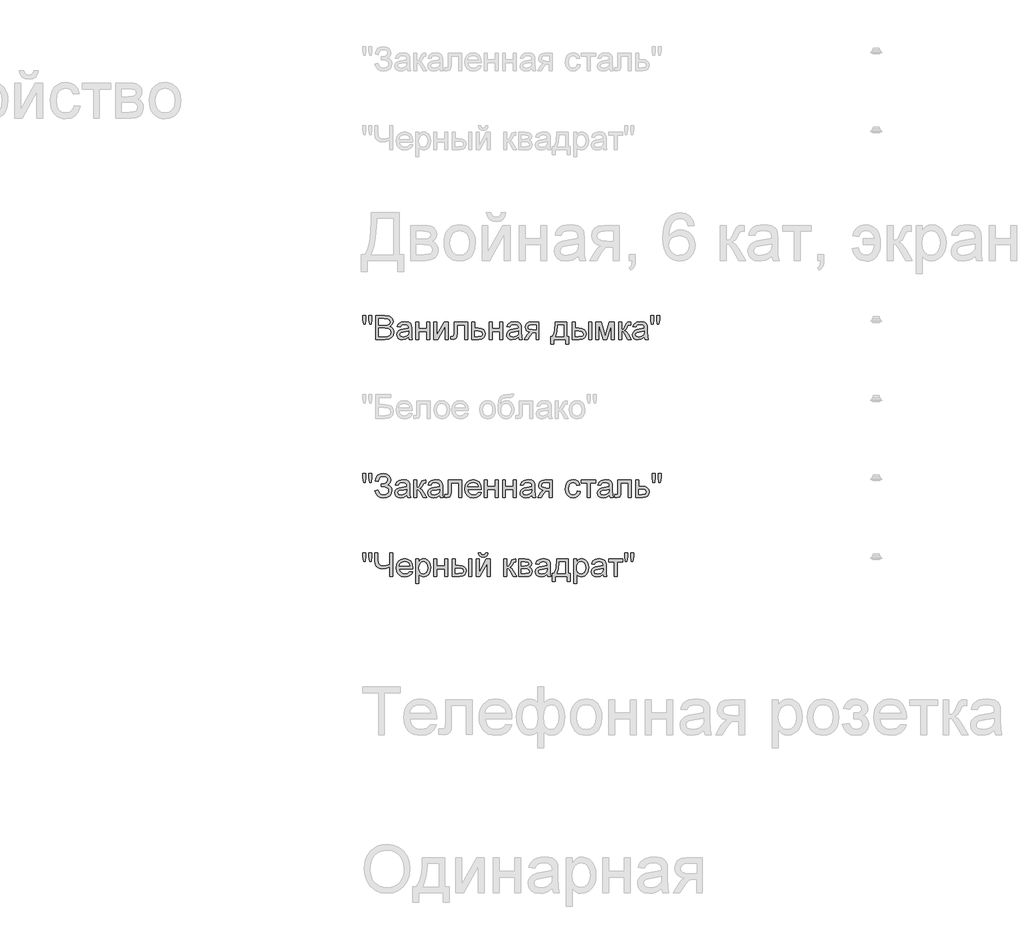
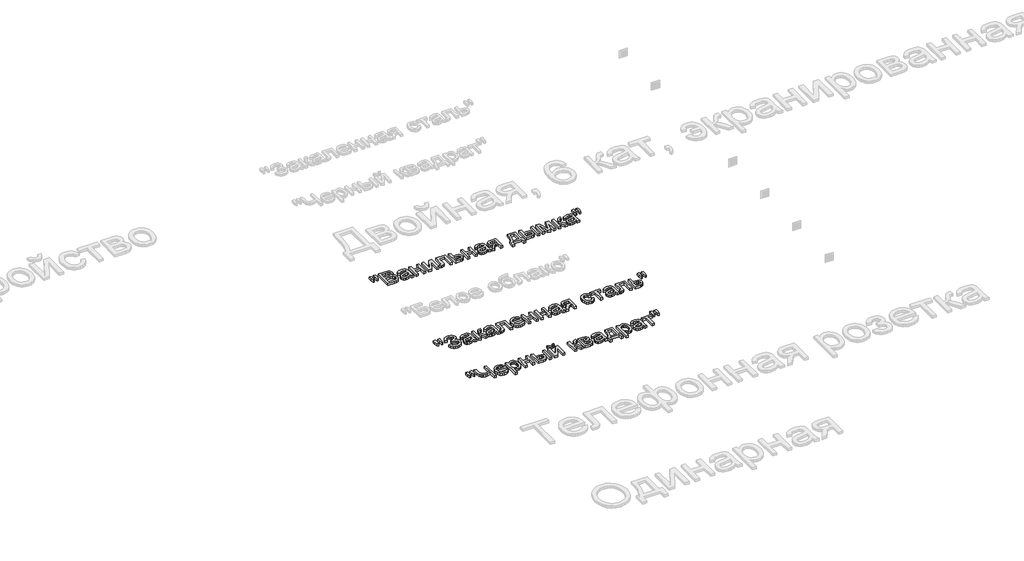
# One storey, part 146 of 168: 3 proxies.
"""IFC4 building model written with IfcOpenShell, lengths in millimetres."""

from ifc_helpers import new_model, si_unit, origin, origin_with_axes, place, context, project, spatial, polyline, outline, extrude, element, save

model = new_model("IFC4")

# Units and contexts
model_context = context("Model", 3, world=origin())
ifc_project = project(units=[si_unit("LENGTHUNIT", "METRE", prefix="MILLI")], contexts=[model_context])

# Site, building, storey
site = spatial("IfcSite", under=ifc_project)
building = spatial("IfcBuilding", under=site)
storey = spatial("IfcBuildingStorey", under=building, Name="Этаж 01", Elevation=0.0)

# Proxies
placement = place(None, origin())
element("IfcBuildingElementProxy", 1, Name="150", ObjectType="150", at=placement, inside=storey, context=model_context, shape_type="SweptSolid", body=[
    extrude(outline(polyline([(77280.1485789, -17251.873446), (77275.550054, -17222.7739802), (77275.550054, -17197.7212163), (77294.3856121, -17197.7212163), (77294.3856121, -17222.7739802), (77290.2653338, -17251.873446), (77280.1485789, -17251.873446)])), origin_with_axes(), (0.0, 0.0, 1.0), 20.0),
    extrude(outline(polyline([(77317.7093306, -17251.873446), (77313.2211703, -17222.7739802), (77313.2211703, -17197.7212163), (77332.0567284, -17197.7212163), (77332.0567284, -17222.7739802), (77327.6421445, -17251.873446), (77317.7093306, -17251.873446)])), origin_with_axes(), (0.0, 0.0, 1.0), 20.0),
    extrude(outline(polyline([(77357.9556209, -17348.4056816), (77357.9556209, -17197.7212163), (77415.4555767, -17197.7212163), (77443.6169435, -17202.1541944), (77453.0807078, -17207.7781904), (77460.2452096, -17215.7842223), (77466.2600803, -17235.0612389), (77461.2017028, -17252.6643923), (77445.9162059, -17266.0001146), (77456.5893823, -17271.5735269), (77464.4758526, -17280.0532069), (77469.3456905, -17290.8781346), (77470.9689698, -17303.48729), (77466.5359918, -17323.7391938), (77455.5547142, -17338.160168), (77439.1655713, -17345.8121135), (77415.0141183, -17348.4056816), (77357.9556209, -17348.4056816)]), holes=[polyline([(77376.791179, -17258.9367803), (77411.1881456, -17258.9367803), (77431.2745025, -17257.3180996), (77443.3594261, -17250.3467358), (77447.4245221, -17238.0778712), (77443.6353376, -17225.7906126), (77432.7828187, -17218.5249432), (77408.5761834, -17216.5567745), (77376.791179, -17216.5567745), (77376.791179, -17258.9367803)]), polyline([(77376.791179, -17329.5701234), (77415.4187885, -17329.5701234), (77429.3983043, -17328.8343594), (77441.2257105, -17324.7324752), (77449.061597, -17316.3631598), (77452.1334117, -17303.671231), (77448.5281681, -17289.0295275), (77436.8479148, -17280.2923302), (77413.5793786, -17277.7723385), (77376.791179, -17277.7723385), (77376.791179, -17329.5701234)])]), origin_with_axes(), (0.0, 0.0, 1.0), 20.0),
    extrude(outline(polyline([(77565.1467606, -17334.279013), (77546.8814195, -17347.0445182), (77526.7030921, -17350.7601263), (77510.9623412, -17348.5252432), (77499.3510657, -17341.8205939), (77492.1911624, -17331.6394596), (77489.804528, -17318.975122), (77493.4097715, -17304.0759012), (77502.8827329, -17293.2601705), (77516.0713024, -17287.079753), (77532.3684748, -17284.2470616), (77565.036396, -17277.7723385), (77565.1467606, -17273.5784838), (77563.8499765, -17265.1723802), (77559.9596244, -17259.6725443), (77551.2592153, -17255.5890542), (77539.1375035, -17254.2278908), (77520.0812162, -17257.8515285), (77510.9945309, -17270.7090042), (77492.1589727, -17268.3545594), (77500.3075589, -17249.9604597), (77516.7150959, -17239.1815172), (77541.5655247, -17235.3923327), (77564.3926025, -17238.7400588), (77577.2868664, -17247.1461624), (77583.0626137, -17259.9300617), (77583.9823187, -17276.4111751), (77583.9823187, -17299.8452582), (77584.9388119, -17332.5683617), (77588.6912083, -17348.4056816), (77569.8556501, -17348.4056816), (77565.1467606, -17334.279013)]), holes=[polyline([(77565.1467606, -17296.6078966), (77534.7597078, -17302.383644), (77518.5545059, -17305.4370645), (77511.2152601, -17310.4034715), (77508.6400861, -17317.6507468), (77514.2502865, -17327.841078), (77530.7130058, -17331.9245682), (77549.7692932, -17327.4180137), (77562.0565518, -17316.5103126), (77565.036396, -17301.9421856), (77565.1467606, -17296.6078966)])]), origin_with_axes(), (0.0, 0.0, 1.0), 20.0),
    extrude(outline(polyline([(77609.8812112, -17237.7467774), (77628.7167693, -17237.7467774), (77628.7167693, -17280.1267833), (77678.1601095, -17280.1267833), (77678.1601095, -17237.7467774), (77696.9956676, -17237.7467774), (77696.9956676, -17348.4056816), (77678.1601095, -17348.4056816), (77678.1601095, -17298.9623414), (77628.7167693, -17298.9623414), (77628.7167693, -17348.4056816), (77609.8812112, -17348.4056816), (77609.8812112, -17237.7467774)])), origin_with_axes(), (0.0, 0.0, 1.0), 20.0),
    extrude(outline(polyline([(77725.2490049, -17237.7467774), (77744.084563, -17237.7467774), (77744.084563, -17322.1389071), (77790.364118, -17237.7467774), (77814.7179061, -17237.7467774), (77814.7179061, -17348.4056816), (77795.8823479, -17348.4056816), (77795.8823479, -17264.5285867), (77749.8970985, -17348.4056816), (77725.2490049, -17348.4056816), (77725.2490049, -17237.7467774)])), origin_with_axes(), (0.0, 0.0, 1.0), 20.0),
    extrude(outline(polyline([(77852.3890224, -17237.7467774), (77937.1490341, -17237.7467774), (77937.1490341, -17348.295317), (77918.3134759, -17348.295317), (77918.3134759, -17256.5823356), (77871.2245806, -17256.5823356), (77871.2245806, -17309.3734019), (77869.9553877, -17333.72719), (77862.9840239, -17344.0094917), (77846.5029105, -17348.4056816), (77831.1990195, -17347.4491884), (77831.1990195, -17329.5701234), (77839.6235172, -17329.5701234), (77848.1399854, -17328.4112951), (77851.5428938, -17324.7324752), (77852.3890224, -17308.3065441), (77852.3890224, -17237.7467774)])), origin_with_axes(), (0.0, 0.0, 1.0), 20.0),
    extrude(outline(polyline([(77965.4023713, -17237.7467774), (77984.2379295, -17237.7467774), (77984.2379295, -17277.7723385), (78005.9429672, -17277.7723385), (78024.7601312, -17280.1313818), (78038.6844648, -17287.2085117), (78047.2929034, -17298.433511), (78050.162383, -17313.2361628), (78047.7205663, -17326.7144394), (78040.395116, -17338.0865916), (78027.6985887, -17345.8259091), (78009.1435405, -17348.4056816), (77965.4023713, -17348.4056816), (77965.4023713, -17237.7467774)]), holes=[polyline([(77984.2379295, -17329.5701234), (78001.8226888, -17329.5701234), (78024.539402, -17325.615392), (78029.6299692, -17320.552416), (78031.3268249, -17313.272951), (78026.3052356, -17301.6846682), (78018.2348244, -17297.8770895), (78004.066769, -17296.6078966), (77984.2379295, -17296.6078966), (77984.2379295, -17329.5701234)])]), origin_with_axes(), (0.0, 0.0, 1.0), 20.0),
    extrude(outline(polyline([(78073.7068307, -17237.7467774), (78092.5423889, -17237.7467774), (78092.5423889, -17280.1267833), (78141.985729, -17280.1267833), (78141.985729, -17237.7467774), (78160.8212872, -17237.7467774), (78160.8212872, -17348.4056816), (78141.985729, -17348.4056816), (78141.985729, -17298.9623414), (78092.5423889, -17298.9623414), (78092.5423889, -17348.4056816), (78073.7068307, -17348.4056816), (78073.7068307, -17237.7467774)])), origin_with_axes(), (0.0, 0.0, 1.0), 20.0),
    extrude(outline(polyline([(78259.7079675, -17334.279013), (78241.4426264, -17347.0445182), (78221.264299, -17350.7601263), (78205.5235481, -17348.5252432), (78193.9122726, -17341.8205939), (78186.7523693, -17331.6394596), (78184.3657349, -17318.975122), (78187.9709784, -17304.0759012), (78197.4439398, -17293.2601705), (78210.6325093, -17287.079753), (78226.9296817, -17284.2470616), (78259.5976029, -17277.7723385), (78259.7079675, -17273.5784838), (78258.4111834, -17265.1723802), (78254.5208313, -17259.6725443), (78245.8204221, -17255.5890542), (78233.6987104, -17254.2278908), (78214.6424231, -17257.8515285), (78205.5557378, -17270.7090042), (78186.7201796, -17268.3545594), (78194.8687658, -17249.9604597), (78211.2763028, -17239.1815172), (78236.1267316, -17235.3923327), (78258.9538094, -17238.7400588), (78271.8480733, -17247.1461624), (78277.6238206, -17259.9300617), (78278.5435256, -17276.4111751), (78278.5435256, -17299.8452582), (78279.5000188, -17332.5683617), (78283.2524152, -17348.4056816), (78264.416857, -17348.4056816), (78259.7079675, -17334.279013)]), holes=[polyline([(78259.7079675, -17296.6078966), (78229.3209147, -17302.383644), (78213.1157128, -17305.4370645), (78205.776467, -17310.4034715), (78203.201293, -17317.6507468), (78208.8114934, -17327.841078), (78225.2742127, -17331.9245682), (78244.3305001, -17327.4180137), (78256.6177587, -17316.5103126), (78259.5976029, -17301.9421856), (78259.7079675, -17296.6078966)])]), origin_with_axes(), (0.0, 0.0, 1.0), 20.0),
    extrude(outline(polyline([(78389.2024298, -17237.7467774), (78389.2024298, -17348.4056816), (78370.3668716, -17348.4056816), (78370.3668716, -17306.0256757), (78360.1029639, -17306.0256757), (78346.1234481, -17308.4169087), (78332.9900609, -17324.4933519), (78317.9804755, -17348.4056816), (78296.2018614, -17348.4056816), (78315.1109959, -17318.1657816), (78323.4619172, -17307.3132627), (78331.1506509, -17302.4940086), (78318.2747811, -17298.5484742), (78309.224884, -17291.0528785), (78303.872201, -17281.0832765), (78302.0879733, -17269.7157228), (78304.5251915, -17256.8214589), (78311.8368462, -17246.6127335), (78323.7654199, -17239.9632664), (78340.0533952, -17237.7467774), (78389.2024298, -17237.7467774)]), holes=[polyline([(78370.3668716, -17256.5823356), (78345.5348369, -17256.5823356), (78332.7095509, -17257.672186), (78325.4300859, -17260.9417372), (78320.9235315, -17271.1504626), (78322.583599, -17278.32876), (78327.5638015, -17283.3089625), (78351.0898551, -17287.1901176), (78370.3668716, -17287.1901176), (78370.3668716, -17256.5823356)])]), origin_with_axes(), (0.0, 0.0, 1.0), 20.0),
    extrude(outline(polyline([(78492.7979996, -17237.7467774), (78563.4313427, -17237.7467774), (78563.4313427, -17329.5701234), (78577.5580113, -17329.5701234), (78577.5580113, -17379.0134636), (78558.7224531, -17379.0134636), (78558.7224531, -17348.4056816), (78481.0257758, -17348.4056816), (78481.0257758, -17379.0134636), (78462.1902176, -17379.0134636), (78462.1902176, -17329.5701234), (78473.9624415, -17329.5701234), (78482.5202964, -17314.105284), (78488.5121744, -17293.6464466), (78492.7979996, -17237.7467774)]), holes=[polyline([(78509.279113, -17256.5823356), (78504.864529, -17299.4957703), (78495.1524444, -17329.5701234), (78544.5957845, -17329.5701234), (78544.5957845, -17256.5823356), (78509.279113, -17256.5823356)])]), origin_with_axes(), (0.0, 0.0, 1.0), 20.0),
    extrude(outline(polyline([(78702.3435841, -17237.7467774), (78721.1791422, -17237.7467774), (78721.1791422, -17348.4056816), (78702.3435841, -17348.4056816), (78702.3435841, -17237.7467774)])), origin_with_axes(), (0.0, 0.0, 1.0), 20.0),
    extrude(outline(polyline([(78598.7480142, -17237.7467774), (78617.5835724, -17237.7467774), (78617.5835724, -17277.7723385), (78640.8705027, -17277.7723385), (78660.9982463, -17280.1313818), (78675.9112627, -17287.2085117), (78685.1405023, -17298.433511), (78688.2169154, -17313.2361628), (78685.637143, -17326.7144394), (78677.8978255, -17338.0865916), (78664.4931253, -17345.8259091), (78644.9172046, -17348.4056816), (78598.7480142, -17348.4056816), (78598.7480142, -17237.7467774)]), holes=[polyline([(78617.5835724, -17329.5701234), (78636.9341653, -17329.5701234), (78661.9133528, -17325.615392), (78667.5143562, -17320.552416), (78669.3813573, -17313.272951), (78663.8447333, -17301.6846682), (78654.9649816, -17297.8770895), (78639.3989747, -17296.6078966), (78617.5835724, -17296.6078966), (78617.5835724, -17329.5701234)])]), origin_with_axes(), (0.0, 0.0, 1.0), 20.0),
    extrude(outline(polyline([(78749.4324794, -17237.7467774), (78781.8428832, -17237.7467774), (78806.8220707, -17326.3327619), (78833.7510327, -17237.7467774), (78864.8002731, -17237.7467774), (78864.8002731, -17348.4056816), (78845.964715, -17348.4056816), (78845.964715, -17259.3046623), (78818.8886001, -17348.4056816), (78794.1669301, -17348.4056816), (78768.2680376, -17255.0372312), (78768.2680376, -17348.4056816), (78749.4324794, -17348.4056816), (78749.4324794, -17237.7467774)])), origin_with_axes(), (0.0, 0.0, 1.0), 20.0),
    extrude(outline(polyline([(78893.0536104, -17237.7467774), (78911.8891685, -17237.7467774), (78911.8891685, -17284.8356728), (78924.5075209, -17281.4511584), (78934.845005, -17261.7326835), (78943.4350496, -17244.7181412), (78951.0134187, -17239.1815172), (78964.7905994, -17237.7467774), (78968.395843, -17237.7467774), (78968.395843, -17256.6927002), (78963.3190714, -17256.5823356), (78954.1220216, -17258.5688983), (78947.6472984, -17270.9665216), (78940.0505352, -17284.3758203), (78929.4003515, -17290.9425139), (78941.2829399, -17298.2725627), (78952.9447992, -17313.7144094), (78973.1047325, -17348.4056816), (78951.6940004, -17348.4056816), (78931.9387372, -17314.4501734), (78922.0059234, -17300.0843815), (78911.8891685, -17296.6078966), (78911.8891685, -17348.4056816), (78893.0536104, -17348.4056816), (78893.0536104, -17237.7467774)])), origin_with_axes(), (0.0, 0.0, 1.0), 20.0),
    extrude(outline(polyline([(79055.5102994, -17334.279013), (79037.2449584, -17347.0445182), (79017.0666309, -17350.7601263), (79001.3258801, -17348.5252432), (78989.7146046, -17341.8205939), (78982.5547013, -17331.6394596), (78980.1680668, -17318.975122), (78983.7733104, -17304.0759012), (78993.2462717, -17293.2601705), (79006.4348413, -17287.079753), (79022.7320137, -17284.2470616), (79055.3999348, -17277.7723385), (79055.5102994, -17273.5784838), (79054.2135154, -17265.1723802), (79050.3231633, -17259.6725443), (79041.6227541, -17255.5890542), (79029.5010424, -17254.2278908), (79010.444755, -17257.8515285), (79001.3580697, -17270.7090042), (78982.5225116, -17268.3545594), (78990.6710978, -17249.9604597), (79007.0786348, -17239.1815172), (79031.9290635, -17235.3923327), (79054.7561413, -17238.7400588), (79067.6504053, -17247.1461624), (79073.4261526, -17259.9300617), (79074.3458576, -17276.4111751), (79074.3458576, -17299.8452582), (79075.3023508, -17332.5683617), (79079.0547471, -17348.4056816), (79060.219189, -17348.4056816), (79055.5102994, -17334.279013)]), holes=[polyline([(79055.5102994, -17296.6078966), (79025.1232466, -17302.383644), (79008.9180447, -17305.4370645), (79001.5787989, -17310.4034715), (78999.003625, -17317.6507468), (79004.6138254, -17327.841078), (79021.0765447, -17331.9245682), (79040.132832, -17327.4180137), (79052.4200907, -17316.5103126), (79055.3999348, -17301.9421856), (79055.5102994, -17296.6078966)])]), origin_with_axes(), (0.0, 0.0, 1.0), 20.0),
    extrude(outline(polyline([(79100.1343854, -17251.873446), (79095.5358605, -17222.7739802), (79095.5358605, -17197.7212163), (79114.3714187, -17197.7212163), (79114.3714187, -17222.7739802), (79110.2511403, -17251.873446), (79100.1343854, -17251.873446)])), origin_with_axes(), (0.0, 0.0, 1.0), 20.0),
    extrude(outline(polyline([(79137.6951372, -17251.873446), (79133.2069768, -17222.7739802), (79133.2069768, -17197.7212163), (79152.042535, -17197.7212163), (79152.042535, -17222.7739802), (79147.627951, -17251.873446), (79137.6951372, -17251.873446)])), origin_with_axes(), (0.0, 0.0, 1.0), 20.0),
])
element("IfcBuildingElementProxy", 2, Name="150", ObjectType="150", at=placement, inside=storey, context=model_context, shape_type="SweptSolid", body=[
    extrude(outline(polyline([(77280.1485789, -18251.873446), (77275.550054, -18222.7739802), (77275.550054, -18197.7212163), (77294.3856121, -18197.7212163), (77294.3856121, -18222.7739802), (77290.2653338, -18251.873446), (77280.1485789, -18251.873446)])), origin_with_axes(), (0.0, 0.0, 1.0), 20.0),
    extrude(outline(polyline([(77317.7093306, -18251.873446), (77313.2211703, -18222.7739802), (77313.2211703, -18197.7212163), (77332.0567284, -18197.7212163), (77332.0567284, -18222.7739802), (77327.6421445, -18251.873446), (77317.7093306, -18251.873446)])), origin_with_axes(), (0.0, 0.0, 1.0), 20.0),
    extrude(outline(polyline([(77350.8922866, -18306.0256757), (77369.7278447, -18301.3167862), (77381.2977335, -18321.7158428), (77392.2284273, -18329.3723868), (77406.2217387, -18331.9245682), (77420.398991, -18330.0069833), (77431.2193202, -18324.2542286), (77438.0757209, -18315.7883442), (77440.3611878, -18305.7313701), (77437.8641888, -18295.1961495), (77430.3731916, -18287.0613589), (77418.5779752, -18281.8604272), (77403.1683181, -18280.1267833), (77393.2722924, -18280.1267833), (77393.2722924, -18261.2912251), (77414.591054, -18259.7645148), (77427.6324708, -18251.9654165), (77433.2978535, -18237.7099892), (77431.4124583, -18228.8394346), (77425.7562726, -18221.2104817), (77416.8811195, -18215.9543677), (77405.3388219, -18214.2023297), (77386.1169876, -18219.591801), (77375.117316, -18233.8840165), (77372.0822895, -18247.1645565), (77353.2467313, -18242.455667), (77359.0983543, -18221.8542752), (77369.7002536, -18207.1389954), (77385.0524291, -18198.3098275), (77405.1548809, -18195.3667716), (77424.5468605, -18198.4247907), (77439.4598769, -18207.5988479), (77448.965028, -18220.8655924), (77452.1334117, -18236.201673), (77447.2037929, -18254.8440931), (77432.4149367, -18268.7592296), (77442.8903765, -18273.5830823), (77451.5080123, -18281.7270699), (77457.2745625, -18292.4922168), (77459.196746, -18305.1795471), (77455.508729, -18323.0172254), (77444.444678, -18337.6819214), (77427.2921799, -18347.4905751), (77405.3388219, -18350.7601263), (77386.2365493, -18347.9642232), (77370.7947025, -18339.5765137), (77359.0132816, -18325.5969979), (77350.8922866, -18306.0256757)])), origin_with_axes(), (0.0, 0.0, 1.0), 20.0),
    extrude(outline(polyline([(77553.3745367, -18334.279013), (77535.1091957, -18347.0445182), (77514.9308682, -18350.7601263), (77499.1901174, -18348.5252432), (77487.5788419, -18341.8205939), (77480.4189386, -18331.6394596), (77478.0323041, -18318.975122), (77481.6375477, -18304.0759012), (77491.110509, -18293.2601705), (77504.2990786, -18287.079753), (77520.596251, -18284.2470616), (77553.2641721, -18277.7723385), (77553.3745367, -18273.5784838), (77552.0777527, -18265.1723802), (77548.1874006, -18259.6725443), (77539.4869914, -18255.5890542), (77527.3652797, -18254.2278908), (77508.3089923, -18257.8515285), (77499.222307, -18270.7090042), (77480.3867489, -18268.3545594), (77488.5353351, -18249.9604597), (77504.9428721, -18239.1815172), (77529.7933008, -18235.3923327), (77552.6203786, -18238.7400588), (77565.5146426, -18247.1461624), (77571.2903899, -18259.9300617), (77572.2100949, -18276.4111751), (77572.2100949, -18299.8452582), (77573.1665881, -18332.5683617), (77576.9189844, -18348.4056816), (77558.0834263, -18348.4056816), (77553.3745367, -18334.279013)]), holes=[polyline([(77553.3745367, -18296.6078966), (77522.9874839, -18302.383644), (77506.782282, -18305.4370645), (77499.4430362, -18310.4034715), (77496.8678623, -18317.6507468), (77502.4780627, -18327.841078), (77518.940782, -18331.9245682), (77537.9970693, -18327.4180137), (77550.284328, -18316.5103126), (77553.2641721, -18301.9421856), (77553.3745367, -18296.6078966)])]), origin_with_axes(), (0.0, 0.0, 1.0), 20.0),
    extrude(outline(polyline([(77598.1089873, -18237.7467774), (77616.9445455, -18237.7467774), (77616.9445455, -18284.8356728), (77629.5628979, -18281.4511584), (77639.900382, -18261.7326835), (77648.4904266, -18244.7181412), (77656.0687957, -18239.1815172), (77669.8459764, -18237.7467774), (77673.4512199, -18237.7467774), (77673.4512199, -18256.6927002), (77668.3744484, -18256.5823356), (77659.1773985, -18258.5688983), (77652.7026754, -18270.9665216), (77645.1059122, -18284.3758203), (77634.4557285, -18290.9425139), (77646.3383169, -18298.2725627), (77658.0001762, -18313.7144094), (77678.1601095, -18348.4056816), (77656.7493774, -18348.4056816), (77636.9941142, -18314.4501734), (77627.0613004, -18300.0843815), (77616.9445455, -18296.6078966), (77616.9445455, -18348.4056816), (77598.1089873, -18348.4056816), (77598.1089873, -18237.7467774)])), origin_with_axes(), (0.0, 0.0, 1.0), 20.0),
    extrude(outline(polyline([(77760.5656764, -18334.279013), (77742.3003353, -18347.0445182), (77722.1220079, -18350.7601263), (77706.381257, -18348.5252432), (77694.7699816, -18341.8205939), (77687.6100782, -18331.6394596), (77685.2234438, -18318.975122), (77688.8286873, -18304.0759012), (77698.3016487, -18293.2601705), (77711.4902183, -18287.079753), (77727.7873906, -18284.2470616), (77760.4553118, -18277.7723385), (77760.5656764, -18273.5784838), (77759.2688924, -18265.1723802), (77755.3785403, -18259.6725443), (77746.6781311, -18255.5890542), (77734.5564193, -18254.2278908), (77715.500132, -18257.8515285), (77706.4134467, -18270.7090042), (77687.5778886, -18268.3545594), (77695.7264748, -18249.9604597), (77712.1340117, -18239.1815172), (77736.9844405, -18235.3923327), (77759.8115183, -18238.7400588), (77772.7057822, -18247.1461624), (77778.4815296, -18259.9300617), (77779.4012346, -18276.4111751), (77779.4012346, -18299.8452582), (77780.3577277, -18332.5683617), (77784.1101241, -18348.4056816), (77765.2745659, -18348.4056816), (77760.5656764, -18334.279013)]), holes=[polyline([(77760.5656764, -18296.6078966), (77730.1786236, -18302.383644), (77713.9734217, -18305.4370645), (77706.6341759, -18310.4034715), (77704.0590019, -18317.6507468), (77709.6692024, -18327.841078), (77726.1319217, -18331.9245682), (77745.188209, -18327.4180137), (77757.4754676, -18316.5103126), (77760.4553118, -18301.9421856), (77760.5656764, -18296.6078966)])]), origin_with_axes(), (0.0, 0.0, 1.0), 20.0),
    extrude(outline(polyline([(77814.7179061, -18237.7467774), (77899.4779178, -18237.7467774), (77899.4779178, -18348.295317), (77880.6423596, -18348.295317), (77880.6423596, -18256.5823356), (77833.5534643, -18256.5823356), (77833.5534643, -18309.3734019), (77832.2842714, -18333.72719), (77825.3129076, -18344.0094917), (77808.8317942, -18348.4056816), (77793.5279032, -18347.4491884), (77793.5279032, -18329.5701234), (77801.9524009, -18329.5701234), (77810.4688691, -18328.4112951), (77813.8717775, -18324.7324752), (77814.7179061, -18308.3065441), (77814.7179061, -18237.7467774)])), origin_with_axes(), (0.0, 0.0, 1.0), 20.0),
    extrude(outline(polyline([(78005.2072032, -18315.4434548), (78023.6748794, -18317.7978996), (78017.0208138, -18331.713036), (78006.4028197, -18342.1148995), (77992.0600204, -18348.5988196), (77974.2315392, -18350.7601263), (77952.1310283, -18347.0307226), (77935.1256831, -18335.8425114), (77924.2823613, -18317.9220597), (77920.6679207, -18293.9959345), (77924.3191495, -18269.2650674), (77935.2728359, -18250.7698), (77952.0482549, -18239.2366995), (77973.1646814, -18235.3923327), (77993.6235189, -18239.2275025), (78009.971275, -18250.7330118), (78020.6904367, -18269.191491), (78024.2634906, -18293.8855699), (78024.153126, -18298.9623414), (77939.5034789, -18298.9623414), (77942.763833, -18313.0614189), (77950.3376036, -18323.4264941), (77961.2682974, -18329.8000497), (77974.5994212, -18331.9245682), (77993.0670974, -18327.9882308), (78005.2072032, -18315.4434548)]), holes=[polyline([(77939.5034789, -18280.1267833), (78005.4279324, -18280.1267833), (78002.8803496, -18270.1755753), (77997.8863515, -18263.0570587), (77986.9050739, -18256.4351828), (77973.091105, -18254.2278908), (77960.3945777, -18255.9891259), (77949.8961452, -18261.272831), (77942.5982861, -18269.5087892), (77939.5034789, -18280.1267833)])]), origin_with_axes(), (0.0, 0.0, 1.0), 20.0),
    extrude(outline(polyline([(78043.0990487, -18237.7467774), (78061.9346069, -18237.7467774), (78061.9346069, -18280.1267833), (78111.377947, -18280.1267833), (78111.377947, -18237.7467774), (78130.2135052, -18237.7467774), (78130.2135052, -18348.4056816), (78111.377947, -18348.4056816), (78111.377947, -18298.9623414), (78061.9346069, -18298.9623414), (78061.9346069, -18348.4056816), (78043.0990487, -18348.4056816), (78043.0990487, -18237.7467774)])), origin_with_axes(), (0.0, 0.0, 1.0), 20.0),
    extrude(outline(polyline([(78158.4668424, -18237.7467774), (78177.3024005, -18237.7467774), (78177.3024005, -18280.1267833), (78226.7457407, -18280.1267833), (78226.7457407, -18237.7467774), (78245.5812988, -18237.7467774), (78245.5812988, -18348.4056816), (78226.7457407, -18348.4056816), (78226.7457407, -18298.9623414), (78177.3024005, -18298.9623414), (78177.3024005, -18348.4056816), (78158.4668424, -18348.4056816), (78158.4668424, -18237.7467774)])), origin_with_axes(), (0.0, 0.0, 1.0), 20.0),
    extrude(outline(polyline([(78344.4679792, -18334.279013), (78326.2026381, -18347.0445182), (78306.0243107, -18350.7601263), (78290.2835598, -18348.5252432), (78278.6722843, -18341.8205939), (78271.512381, -18331.6394596), (78269.1257465, -18318.975122), (78272.7309901, -18304.0759012), (78282.2039515, -18293.2601705), (78295.392521, -18287.079753), (78311.6896934, -18284.2470616), (78344.3576146, -18277.7723385), (78344.4679792, -18273.5784838), (78343.1711951, -18265.1723802), (78339.280843, -18259.6725443), (78330.5804338, -18255.5890542), (78318.4587221, -18254.2278908), (78299.4024347, -18257.8515285), (78290.3157495, -18270.7090042), (78271.4801913, -18268.3545594), (78279.6287775, -18249.9604597), (78296.0363145, -18239.1815172), (78320.8867433, -18235.3923327), (78343.7138211, -18238.7400588), (78356.608085, -18247.1461624), (78362.3838323, -18259.9300617), (78363.3035373, -18276.4111751), (78363.3035373, -18299.8452582), (78364.2600305, -18332.5683617), (78368.0124268, -18348.4056816), (78349.1768687, -18348.4056816), (78344.4679792, -18334.279013)]), holes=[polyline([(78344.4679792, -18296.6078966), (78314.0809264, -18302.383644), (78297.8757245, -18305.4370645), (78290.5364787, -18310.4034715), (78287.9613047, -18317.6507468), (78293.5715051, -18327.841078), (78310.0342244, -18331.9245682), (78329.0905118, -18327.4180137), (78341.3777704, -18316.5103126), (78344.3576146, -18301.9421856), (78344.4679792, -18296.6078966)])]), origin_with_axes(), (0.0, 0.0, 1.0), 20.0),
    extrude(outline(polyline([(78473.9624415, -18237.7467774), (78473.9624415, -18348.4056816), (78455.1268833, -18348.4056816), (78455.1268833, -18306.0256757), (78444.8629756, -18306.0256757), (78430.8834598, -18308.4169087), (78417.7500726, -18324.4933519), (78402.7404872, -18348.4056816), (78380.9618731, -18348.4056816), (78399.8710076, -18318.1657816), (78408.2219289, -18307.3132627), (78415.9106626, -18302.4940086), (78403.0347928, -18298.5484742), (78393.9848957, -18291.0528785), (78388.6322127, -18281.0832765), (78386.847985, -18269.7157228), (78389.2852032, -18256.8214589), (78396.5968579, -18246.6127335), (78408.5254316, -18239.9632664), (78424.8134069, -18237.7467774), (78473.9624415, -18237.7467774)]), holes=[polyline([(78455.1268833, -18256.5823356), (78430.2948486, -18256.5823356), (78417.4695626, -18257.672186), (78410.1900976, -18260.9417372), (78405.6835431, -18271.1504626), (78407.3436107, -18278.32876), (78412.3238132, -18283.3089625), (78435.8498668, -18287.1901176), (78455.1268833, -18287.1901176), (78455.1268833, -18256.5823356)])]), origin_with_axes(), (0.0, 0.0, 1.0), 20.0),
    extrude(outline(polyline([(78631.710241, -18308.3801205), (78650.5457991, -18310.7345653), (78645.2942837, -18327.4869916), (78635.4258491, -18340.1467308), (78621.8693976, -18348.1067774), (78605.5538311, -18350.7601263), (78585.518058, -18347.0583138), (78569.8508835, -18335.952876), (78559.7387272, -18317.9312568), (78556.3680084, -18293.4808997), (78557.8073467, -18276.7192763), (78562.1253616, -18262.192536), (78569.391031, -18250.4616989), (78579.6733328, -18242.087785), (78591.974387, -18237.0661957), (78605.2963137, -18235.3923327), (78621.2118085, -18237.6915951), (78633.9359271, -18244.5893825), (78643.0639991, -18255.7178129), (78648.1913544, -18270.7090042), (78629.3557962, -18273.063449), (78620.6185988, -18258.9551744), (78605.4434665, -18254.2278908), (78593.271171, -18256.5547444), (78583.6096701, -18263.5353053), (78577.3050924, -18275.5466524), (78575.2035665, -18292.9658649), (78577.2591072, -18310.6196021), (78583.4257291, -18322.672336), (78592.9124861, -18329.6115101), (78604.9284317, -18331.9245682), (78614.6819031, -18330.4806314), (78622.678738, -18326.1488209), (78628.4958721, -18318.8187721), (78631.710241, -18308.3801205)])), origin_with_axes(), (0.0, 0.0, 1.0), 20.0),
    extrude(outline(polyline([(78657.6091334, -18237.7467774), (78747.0780347, -18237.7467774), (78747.0780347, -18256.5823356), (78711.7613631, -18256.5823356), (78711.7613631, -18348.4056816), (78692.925805, -18348.4056816), (78692.925805, -18256.5823356), (78657.6091334, -18256.5823356), (78657.6091334, -18237.7467774)])), origin_with_axes(), (0.0, 0.0, 1.0), 20.0),
    extrude(outline(polyline([(78834.1924911, -18334.279013), (78815.9271501, -18347.0445182), (78795.7488226, -18350.7601263), (78780.0080718, -18348.5252432), (78768.3967963, -18341.8205939), (78761.236893, -18331.6394596), (78758.8502585, -18318.975122), (78762.4555021, -18304.0759012), (78771.9284634, -18293.2601705), (78785.117033, -18287.079753), (78801.4142054, -18284.2470616), (78834.0821265, -18277.7723385), (78834.1924911, -18273.5784838), (78832.8957071, -18265.1723802), (78829.005355, -18259.6725443), (78820.3049458, -18255.5890542), (78808.1832341, -18254.2278908), (78789.1269467, -18257.8515285), (78780.0402614, -18270.7090042), (78761.2047033, -18268.3545594), (78769.3532895, -18249.9604597), (78785.7608265, -18239.1815172), (78810.6112552, -18235.3923327), (78833.438333, -18238.7400588), (78846.332597, -18247.1461624), (78852.1083443, -18259.9300617), (78853.0280493, -18276.4111751), (78853.0280493, -18299.8452582), (78853.9845425, -18332.5683617), (78857.7369388, -18348.4056816), (78838.9013807, -18348.4056816), (78834.1924911, -18334.279013)]), holes=[polyline([(78834.1924911, -18296.6078966), (78803.8054383, -18302.383644), (78787.6002364, -18305.4370645), (78780.2609906, -18310.4034715), (78777.6858167, -18317.6507468), (78783.2960171, -18327.841078), (78799.7587364, -18331.9245682), (78818.8150237, -18327.4180137), (78831.1022824, -18316.5103126), (78834.0821265, -18301.9421856), (78834.1924911, -18296.6078966)])]), origin_with_axes(), (0.0, 0.0, 1.0), 20.0),
    extrude(outline(polyline([(78888.3447208, -18237.7467774), (78973.1047325, -18237.7467774), (78973.1047325, -18348.295317), (78954.2691744, -18348.295317), (78954.2691744, -18256.5823356), (78907.180279, -18256.5823356), (78907.180279, -18309.3734019), (78905.9110861, -18333.72719), (78898.9397223, -18344.0094917), (78882.4586089, -18348.4056816), (78867.1547179, -18347.4491884), (78867.1547179, -18329.5701234), (78875.5792156, -18329.5701234), (78884.0956838, -18328.4112951), (78887.4985922, -18324.7324752), (78888.3447208, -18308.3065441), (78888.3447208, -18237.7467774)])), origin_with_axes(), (0.0, 0.0, 1.0), 20.0),
    extrude(outline(polyline([(79001.3580697, -18237.7467774), (79020.1936279, -18237.7467774), (79020.1936279, -18277.7723385), (79041.8986656, -18277.7723385), (79060.7158297, -18280.1313818), (79074.6401632, -18287.2085117), (79083.2486019, -18298.433511), (79086.1180814, -18313.2361628), (79083.6762647, -18326.7144394), (79076.3508145, -18338.0865916), (79063.6542871, -18345.8259091), (79045.099239, -18348.4056816), (79001.3580697, -18348.4056816), (79001.3580697, -18237.7467774)]), holes=[polyline([(79020.1936279, -18329.5701234), (79037.7783873, -18329.5701234), (79060.4951005, -18325.615392), (79065.5856676, -18320.552416), (79067.2825233, -18313.272951), (79062.260934, -18301.6846682), (79054.1905228, -18297.8770895), (79040.0224674, -18296.6078966), (79020.1936279, -18296.6078966), (79020.1936279, -18329.5701234)])]), origin_with_axes(), (0.0, 0.0, 1.0), 20.0),
    extrude(outline(polyline([(79109.5521645, -18251.873446), (79104.9536396, -18222.7739802), (79104.9536396, -18197.7212163), (79123.7891977, -18197.7212163), (79123.7891977, -18222.7739802), (79119.6689194, -18251.873446), (79109.5521645, -18251.873446)])), origin_with_axes(), (0.0, 0.0, 1.0), 20.0),
    extrude(outline(polyline([(79147.1129162, -18251.873446), (79142.6247559, -18222.7739802), (79142.6247559, -18197.7212163), (79161.460314, -18197.7212163), (79161.460314, -18222.7739802), (79157.0457301, -18251.873446), (79147.1129162, -18251.873446)])), origin_with_axes(), (0.0, 0.0, 1.0), 20.0),
])
element("IfcBuildingElementProxy", 3, Name="150", ObjectType="150", at=placement, inside=storey, context=model_context, shape_type="SweptSolid", body=[
    extrude(outline(polyline([(77280.1485789, -18751.873446), (77275.550054, -18722.7739802), (77275.550054, -18697.7212163), (77294.3856121, -18697.7212163), (77294.3856121, -18722.7739802), (77290.2653338, -18751.873446), (77280.1485789, -18751.873446)])), origin_with_axes(), (0.0, 0.0, 1.0), 20.0),
    extrude(outline(polyline([(77317.7093306, -18751.873446), (77313.2211703, -18722.7739802), (77313.2211703, -18697.7212163), (77332.0567284, -18697.7212163), (77332.0567284, -18722.7739802), (77327.6421445, -18751.873446), (77317.7093306, -18751.873446)])), origin_with_axes(), (0.0, 0.0, 1.0), 20.0),
    extrude(outline(polyline([(77463.9056355, -18848.4056816), (77445.0700773, -18848.4056816), (77445.0700773, -18788.0730344), (77420.0908899, -18796.2400147), (77398.4226404, -18798.9623414), (77383.7395502, -18797.0999388), (77370.886673, -18791.512731), (77360.926268, -18783.0606422), (77354.9205944, -18772.6035965), (77350.8922866, -18742.6028198), (77350.8922866, -18697.7212163), (77369.7278447, -18697.7212163), (77369.7278447, -18740.064434), (77371.990319, -18760.4313009), (77378.7777418, -18772.3828673), (77388.7381468, -18778.1908043), (77400.5195677, -18780.1267833), (77422.2521966, -18777.7907326), (77445.0700773, -18770.7825806), (77445.0700773, -18697.7212163), (77463.9056355, -18697.7212163), (77463.9056355, -18848.4056816)])), origin_with_axes(), (0.0, 0.0, 1.0), 20.0),
    extrude(outline(polyline([(77571.9893657, -18815.4434548), (77590.4570418, -18817.7978996), (77583.8029763, -18831.713036), (77573.1849822, -18842.1148995), (77558.8421829, -18848.5988196), (77541.0137017, -18850.7601263), (77518.9131908, -18847.0307226), (77501.9078456, -18835.8425114), (77491.0645238, -18817.9220597), (77487.4500832, -18793.9959345), (77491.101312, -18769.2650674), (77502.0549984, -18750.7698), (77518.8304174, -18739.2366995), (77539.9468439, -18735.3923327), (77560.4056814, -18739.2275025), (77576.7534375, -18750.7330118), (77587.4725992, -18769.191491), (77591.045653, -18793.8855699), (77590.9352884, -18798.9623414), (77506.2856413, -18798.9623414), (77509.5459955, -18813.0614189), (77517.1197661, -18823.4264941), (77528.0504599, -18829.8000497), (77541.3815837, -18831.9245682), (77559.8492598, -18827.9882308), (77571.9893657, -18815.4434548)]), holes=[polyline([(77506.2856413, -18780.1267833), (77572.2100949, -18780.1267833), (77569.6625121, -18770.1755753), (77564.668514, -18763.0570587), (77553.6872364, -18756.4351828), (77539.8732675, -18754.2278908), (77527.1767401, -18755.9891259), (77516.6783077, -18761.272831), (77509.3804486, -18769.5087892), (77506.2856413, -18780.1267833)])]), origin_with_axes(), (0.0, 0.0, 1.0), 20.0),
    extrude(outline(polyline([(77609.8812112, -18890.7856874), (77609.8812112, -18737.7467774), (77628.7167693, -18737.7467774), (77628.7167693, -18756.2144536), (77641.739792, -18740.5978629), (77659.3245513, -18735.3923327), (77672.0624654, -18737.2133485), (77683.2000928, -18742.6763962), (77692.268384, -18751.4503817), (77698.7982894, -18763.2042115), (77704.0590019, -18792.2301009), (77702.5736784, -18808.3387338), (77698.1177077, -18822.7459124), (77690.8336442, -18834.7204713), (77680.8640422, -18843.5312451), (77669.2527667, -18848.952906), (77657.043683, -18850.7601263), (77640.6545401, -18845.9224781), (77628.7167693, -18833.6904018), (77628.7167693, -18890.7856874), (77609.8812112, -18890.7856874)]), holes=[polyline([(77628.7167693, -18793.9591463), (77630.7539159, -18810.8449299), (77636.8653555, -18822.6539419), (77645.8830629, -18829.6069116), (77656.6390128, -18831.9245682), (77667.5697066, -18829.5241382), (77676.8173402, -18822.3228481), (77683.1219179, -18810.0815747), (77685.2234438, -18792.5611947), (77683.1725017, -18775.7673816), (77677.0196753, -18763.7928227), (77668.0157635, -18756.6191238), (77657.411565, -18754.2278908), (77646.7659797, -18756.7708751), (77637.4171785, -18764.399828), (77630.8918716, -18776.8756261), (77628.7167693, -18793.9591463)])]), origin_with_axes(), (0.0, 0.0, 1.0), 20.0),
    extrude(outline(polyline([(77725.2490049, -18737.7467774), (77744.084563, -18737.7467774), (77744.084563, -18780.1267833), (77793.5279032, -18780.1267833), (77793.5279032, -18737.7467774), (77812.3634613, -18737.7467774), (77812.3634613, -18848.4056816), (77793.5279032, -18848.4056816), (77793.5279032, -18798.9623414), (77744.084563, -18798.9623414), (77744.084563, -18848.4056816), (77725.2490049, -18848.4056816), (77725.2490049, -18737.7467774)])), origin_with_axes(), (0.0, 0.0, 1.0), 20.0),
    extrude(outline(polyline([(77944.2123684, -18737.7467774), (77963.0479266, -18737.7467774), (77963.0479266, -18848.4056816), (77944.2123684, -18848.4056816), (77944.2123684, -18737.7467774)])), origin_with_axes(), (0.0, 0.0, 1.0), 20.0),
    extrude(outline(polyline([(77840.6167986, -18737.7467774), (77859.4523567, -18737.7467774), (77859.4523567, -18777.7723385), (77882.739287, -18777.7723385), (77902.8670307, -18780.1313818), (77917.780047, -18787.2085117), (77927.0092866, -18798.433511), (77930.0856998, -18813.2361628), (77927.5059273, -18826.7144394), (77919.7666098, -18838.0865916), (77906.3619096, -18845.8259091), (77886.785989, -18848.4056816), (77840.6167986, -18848.4056816), (77840.6167986, -18737.7467774)]), holes=[polyline([(77859.4523567, -18829.5701234), (77878.8029497, -18829.5701234), (77903.7821371, -18825.615392), (77909.3831405, -18820.552416), (77911.2501416, -18813.272951), (77905.7135176, -18801.6846682), (77896.8337659, -18797.8770895), (77881.267759, -18796.6078966), (77859.4523567, -18796.6078966), (77859.4523567, -18829.5701234)])]), origin_with_axes(), (0.0, 0.0, 1.0), 20.0),
    extrude(outline(polyline([(77991.3012638, -18737.7467774), (78010.1368219, -18737.7467774), (78010.1368219, -18822.1389071), (78056.4163769, -18737.7467774), (78080.770165, -18737.7467774), (78080.770165, -18848.4056816), (78061.9346069, -18848.4056816), (78061.9346069, -18764.5285867), (78015.9493575, -18848.4056816), (77991.3012638, -18848.4056816), (77991.3012638, -18737.7467774)])), origin_with_axes(), (0.0, 0.0, 1.0), 20.0),
    extrude(outline(polyline([(78052.5168278, -18697.7212163), (78066.6434964, -18697.7212163), (78063.6038714, -18709.7831473), (78057.5016288, -18718.672096), (78048.6126801, -18724.1489392), (78037.2129368, -18725.9745536), (78024.8429047, -18724.1627347), (78015.2503817, -18718.7272783), (78008.6928851, -18709.8521251), (78005.4279324, -18697.7212163), (78019.554601, -18697.7212163), (78024.8521017, -18708.3346119), (78035.5206796, -18711.847885), (78047.219327, -18708.4449765), (78052.5168278, -18697.7212163)])), origin_with_axes(), (0.0, 0.0, 1.0), 20.0),
    extrude(outline(polyline([(78167.8846215, -18737.7467774), (78186.7201796, -18737.7467774), (78186.7201796, -18784.8356728), (78199.3385321, -18781.4511584), (78209.6760161, -18761.7326835), (78218.2660607, -18744.7181412), (78225.8444298, -18739.1815172), (78239.6216105, -18737.7467774), (78243.2268541, -18737.7467774), (78243.2268541, -18756.6927002), (78238.1500825, -18756.5823356), (78228.9530327, -18758.5688983), (78222.4783096, -18770.9665216), (78214.8815464, -18784.3758203), (78204.2313626, -18790.9425139), (78216.113951, -18798.2725627), (78227.7758103, -18813.7144094), (78247.9357436, -18848.4056816), (78226.5250115, -18848.4056816), (78206.7697484, -18814.4501734), (78196.8369345, -18800.0843815), (78186.7201796, -18796.6078966), (78186.7201796, -18848.4056816), (78167.8846215, -18848.4056816), (78167.8846215, -18737.7467774)])), origin_with_axes(), (0.0, 0.0, 1.0), 20.0),
    extrude(outline(polyline([(78259.7079675, -18737.7467774), (78301.2050565, -18737.7467774), (78323.9585579, -18740.2667691), (78336.7608514, -18749.5006072), (78342.1135344, -18765.5954445), (78338.8761728, -18778.6736494), (78329.1273, -18787.999458), (78341.7824406, -18798.2081833), (78346.8224239, -18815.9584896), (78343.6310476, -18830.3150845), (78336.0434815, -18840.4226423), (78324.0321343, -18846.4099217), (78307.569415, -18848.4056816), (78259.7079675, -18848.4056816), (78259.7079675, -18737.7467774)]), holes=[polyline([(78278.5435256, -18780.1267833), (78297.1583546, -18780.1267833), (78312.5174279, -18779.1702901), (78319.9854324, -18775.3443173), (78323.2779762, -18768.4281358), (78321.8340394, -18762.8087383), (78317.5022289, -18759.1942977), (78297.7469658, -18756.5823356), (78278.5435256, -18756.5823356), (78278.5435256, -18780.1267833)]), polyline([(78278.5435256, -18829.5701234), (78301.6465149, -18829.5701234), (78322.137542, -18826.167215), (78326.377382, -18821.5273033), (78327.9868658, -18814.4133852), (78324.7678983, -18805.345094), (78316.3801888, -18800.0659874), (78299.8071049, -18798.9623414), (78278.5435256, -18798.9623414), (78278.5435256, -18829.5701234)])]), origin_with_axes(), (0.0, 0.0, 1.0), 20.0),
    extrude(outline(polyline([(78441.0002147, -18834.279013), (78422.7348736, -18847.0445182), (78402.5565462, -18850.7601263), (78386.8157953, -18848.5252432), (78375.2045198, -18841.8205939), (78368.0446165, -18831.6394596), (78365.6579821, -18818.975122), (78369.2632256, -18804.0759012), (78378.736187, -18793.2601705), (78391.9247565, -18787.079753), (78408.2219289, -18784.2470616), (78440.8898501, -18777.7723385), (78441.0002147, -18773.5784838), (78439.7034307, -18765.1723802), (78435.8130786, -18759.6725443), (78427.1126694, -18755.5890542), (78414.9909576, -18754.2278908), (78395.9346703, -18757.8515285), (78386.847985, -18770.7090042), (78368.0124268, -18768.3545594), (78376.161013, -18749.9604597), (78392.56855, -18739.1815172), (78417.4189788, -18735.3923327), (78440.2460566, -18738.7400588), (78453.1403205, -18747.1461624), (78458.9160679, -18759.9300617), (78459.8357728, -18776.4111751), (78459.8357728, -18799.8452582), (78460.792266, -18832.5683617), (78464.5446624, -18848.4056816), (78445.7091042, -18848.4056816), (78441.0002147, -18834.279013)]), holes=[polyline([(78441.0002147, -18796.6078966), (78410.6131619, -18802.383644), (78394.40796, -18805.4370645), (78387.0687142, -18810.4034715), (78384.4935402, -18817.6507468), (78390.1037407, -18827.841078), (78406.5664599, -18831.9245682), (78425.6227473, -18827.4180137), (78437.9100059, -18816.5103126), (78440.8898501, -18801.9421856), (78441.0002147, -18796.6078966)])]), origin_with_axes(), (0.0, 0.0, 1.0), 20.0),
    extrude(outline(polyline([(78502.2157787, -18737.7467774), (78572.8491218, -18737.7467774), (78572.8491218, -18829.5701234), (78586.9757904, -18829.5701234), (78586.9757904, -18879.0134636), (78568.1402322, -18879.0134636), (78568.1402322, -18848.4056816), (78490.4435548, -18848.4056816), (78490.4435548, -18879.0134636), (78471.6079967, -18879.0134636), (78471.6079967, -18829.5701234), (78483.3802205, -18829.5701234), (78491.9380754, -18814.105284), (78497.9299534, -18793.6464466), (78502.2157787, -18737.7467774)]), holes=[polyline([(78518.6968921, -18756.5823356), (78514.2823081, -18799.4957703), (78504.5702235, -18829.5701234), (78554.0135636, -18829.5701234), (78554.0135636, -18756.5823356), (78518.6968921, -18756.5823356)])]), origin_with_axes(), (0.0, 0.0, 1.0), 20.0),
    extrude(outline(polyline([(78608.1657933, -18890.7856874), (78608.1657933, -18737.7467774), (78627.0013514, -18737.7467774), (78627.0013514, -18756.2144536), (78640.0243741, -18740.5978629), (78657.6091334, -18735.3923327), (78670.3470475, -18737.2133485), (78681.4846749, -18742.6763962), (78690.5529661, -18751.4503817), (78697.0828715, -18763.2042115), (78702.3435841, -18792.2301009), (78700.8582605, -18808.3387338), (78696.4022898, -18822.7459124), (78689.1182263, -18834.7204713), (78679.1486243, -18843.5312451), (78667.5373488, -18848.952906), (78655.3282651, -18850.7601263), (78638.9391222, -18845.9224781), (78627.0013514, -18833.6904018), (78627.0013514, -18890.7856874), (78608.1657933, -18890.7856874)]), holes=[polyline([(78627.0013514, -18793.9591463), (78629.038498, -18810.8449299), (78635.1499376, -18822.6539419), (78644.167645, -18829.6069116), (78654.9235949, -18831.9245682), (78665.8542887, -18829.5241382), (78675.1019223, -18822.3228481), (78681.4065, -18810.0815747), (78683.5080259, -18792.5611947), (78681.4570838, -18775.7673816), (78675.3042574, -18763.7928227), (78666.3003456, -18756.6191238), (78655.6961471, -18754.2278908), (78645.0505618, -18756.7708751), (78635.7017606, -18764.399828), (78629.1764537, -18776.8756261), (78627.0013514, -18793.9591463)])]), origin_with_axes(), (0.0, 0.0, 1.0), 20.0),
    extrude(outline(polyline([(78794.1669301, -18834.279013), (78775.901589, -18847.0445182), (78755.7232616, -18850.7601263), (78739.9825107, -18848.5252432), (78728.3712352, -18841.8205939), (78721.2113319, -18831.6394596), (78718.8246974, -18818.975122), (78722.429941, -18804.0759012), (78731.9029024, -18793.2601705), (78745.0914719, -18787.079753), (78761.3886443, -18784.2470616), (78794.0565655, -18777.7723385), (78794.1669301, -18773.5784838), (78792.870146, -18765.1723802), (78788.9797939, -18759.6725443), (78780.2793847, -18755.5890542), (78768.157673, -18754.2278908), (78749.1013856, -18757.8515285), (78740.0147004, -18770.7090042), (78721.1791422, -18768.3545594), (78729.3277284, -18749.9604597), (78745.7352654, -18739.1815172), (78770.5856942, -18735.3923327), (78793.412772, -18738.7400588), (78806.3070359, -18747.1461624), (78812.0827832, -18759.9300617), (78813.0024882, -18776.4111751), (78813.0024882, -18799.8452582), (78813.9589814, -18832.5683617), (78817.7113777, -18848.4056816), (78798.8758196, -18848.4056816), (78794.1669301, -18834.279013)]), holes=[polyline([(78794.1669301, -18796.6078966), (78763.7798773, -18802.383644), (78747.5746754, -18805.4370645), (78740.2354296, -18810.4034715), (78737.6602556, -18817.6507468), (78743.270456, -18827.841078), (78759.7331753, -18831.9245682), (78778.7894627, -18827.4180137), (78791.0767213, -18816.5103126), (78794.0565655, -18801.9421856), (78794.1669301, -18796.6078966)])]), origin_with_axes(), (0.0, 0.0, 1.0), 20.0),
    extrude(outline(polyline([(78829.4836016, -18737.7467774), (78918.9525028, -18737.7467774), (78918.9525028, -18756.5823356), (78883.6358313, -18756.5823356), (78883.6358313, -18848.4056816), (78864.8002731, -18848.4056816), (78864.8002731, -18756.5823356), (78829.4836016, -18756.5823356), (78829.4836016, -18737.7467774)])), origin_with_axes(), (0.0, 0.0, 1.0), 20.0),
    extrude(outline(polyline([(78935.3232516, -18751.873446), (78930.7247267, -18722.7739802), (78930.7247267, -18697.7212163), (78949.5602848, -18697.7212163), (78949.5602848, -18722.7739802), (78945.4400065, -18751.873446), (78935.3232516, -18751.873446)])), origin_with_axes(), (0.0, 0.0, 1.0), 20.0),
    extrude(outline(polyline([(78972.8840033, -18751.873446), (78968.395843, -18722.7739802), (78968.395843, -18697.7212163), (78987.2314011, -18697.7212163), (78987.2314011, -18722.7739802), (78982.8168172, -18751.873446), (78972.8840033, -18751.873446)])), origin_with_axes(), (0.0, 0.0, 1.0), 20.0),
])

save(model, "model.ifc")
